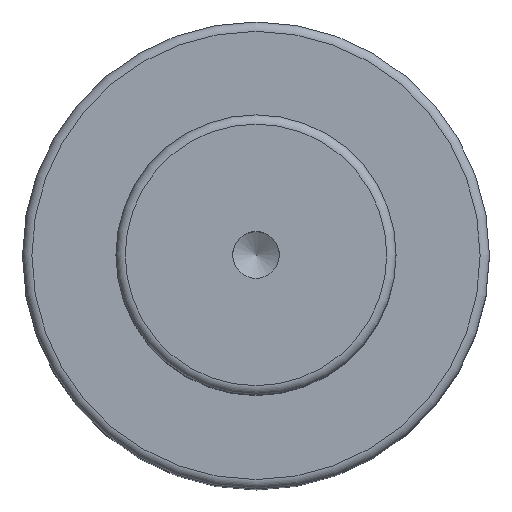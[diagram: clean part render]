
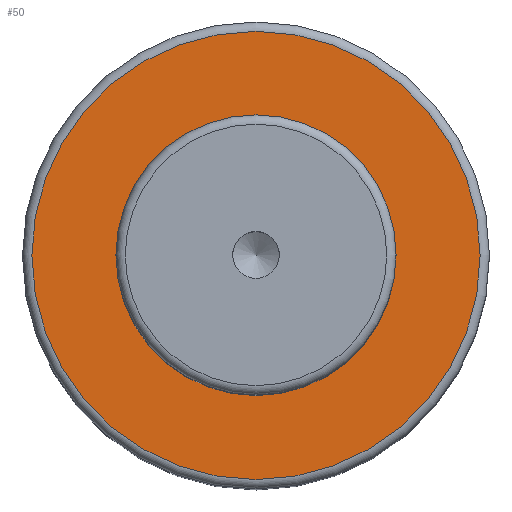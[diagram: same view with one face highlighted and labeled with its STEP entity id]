
A CAD part, top view. The second image highlights one B-rep face of the part: STEP entity #50.
In plain terms, the highlighted planar face has unit normal (0, 0, 1).
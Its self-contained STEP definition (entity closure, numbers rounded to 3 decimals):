
#40=PLANE('',#179);
#50=ADVANCED_FACE('',(#72,#73),#40,.F.);
#72=FACE_BOUND('',#96,.T.);
#73=FACE_BOUND('',#97,.T.);
#96=EDGE_LOOP('',(#118));
#97=EDGE_LOOP('',(#119));
#118=ORIENTED_EDGE('',*,*,#149,.F.);
#119=ORIENTED_EDGE('',*,*,#148,.T.);
#135=VERTEX_POINT('',#256);
#136=VERTEX_POINT('',#259);
#148=EDGE_CURVE('',#135,#135,#159,.T.);
#149=EDGE_CURVE('',#136,#136,#160,.T.);
#159=CIRCLE('',#176,15.);
#160=CIRCLE('',#178,24.);
#176=AXIS2_PLACEMENT_3D('',#255,#213,#214);
#178=AXIS2_PLACEMENT_3D('',#258,#217,#218);
#179=AXIS2_PLACEMENT_3D('',#260,#219,#220);
#213=DIRECTION('',(0.,0.,-1.));
#214=DIRECTION('',(-1.,0.,0.));
#217=DIRECTION('',(0.,0.,-1.));
#218=DIRECTION('',(-1.,0.,0.));
#219=DIRECTION('',(0.,0.,-1.));
#220=DIRECTION('',(-1.,0.,0.));
#255=CARTESIAN_POINT('',(0.,0.,66.));
#256=CARTESIAN_POINT('',(-15.,0.,66.));
#258=CARTESIAN_POINT('',(0.,0.,66.));
#259=CARTESIAN_POINT('',(-24.,0.,66.));
#260=CARTESIAN_POINT('',(15.,0.,66.));
